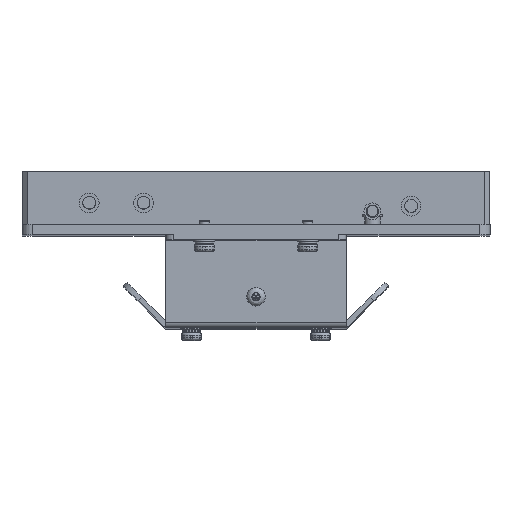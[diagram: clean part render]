
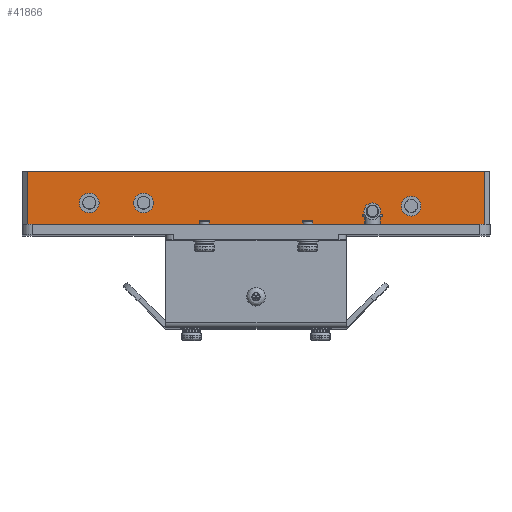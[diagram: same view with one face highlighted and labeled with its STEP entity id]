
A CAD part, top view. The second image highlights one B-rep face of the part: STEP entity #41866.
In plain terms, the highlighted planar face has unit normal (0, 0, 1).
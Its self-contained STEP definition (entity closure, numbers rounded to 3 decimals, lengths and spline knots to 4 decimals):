
#1998=FACE_BOUND('',#5967,.T.);
#1999=FACE_BOUND('',#5968,.T.);
#2000=FACE_BOUND('',#5969,.T.);
#2363=PLANE('',#44279);
#3671=FACE_OUTER_BOUND('',#5966,.T.);
#5966=EDGE_LOOP('',(#27624,#27625,#27626,#27627));
#5967=EDGE_LOOP('',(#27628,#27629));
#5968=EDGE_LOOP('',(#27630,#27631));
#5969=EDGE_LOOP('',(#27632,#27633));
#8557=LINE('',#56878,#12278);
#8560=LINE('',#56884,#12281);
#8561=LINE('',#56885,#12282);
#8562=LINE('',#56886,#12283);
#12278=VECTOR('',#47385,0.3937);
#12281=VECTOR('',#47390,0.3937);
#12282=VECTOR('',#47391,0.3937);
#12283=VECTOR('',#47392,0.3937);
#16014=CIRCLE('',#44280,0.1496);
#16015=CIRCLE('',#44281,0.1496);
#16016=CIRCLE('',#44282,0.1496);
#16017=CIRCLE('',#44283,0.1496);
#16018=CIRCLE('',#44284,0.1496);
#16019=CIRCLE('',#44285,0.1496);
#17170=VERTEX_POINT('',#56876);
#17171=VERTEX_POINT('',#56877);
#17172=VERTEX_POINT('',#56882);
#17173=VERTEX_POINT('',#56883);
#17174=VERTEX_POINT('',#56887);
#17175=VERTEX_POINT('',#56888);
#17176=VERTEX_POINT('',#56891);
#17177=VERTEX_POINT('',#56892);
#17178=VERTEX_POINT('',#56895);
#17179=VERTEX_POINT('',#56896);
#21319=EDGE_CURVE('',#17170,#17171,#8557,.T.);
#21322=EDGE_CURVE('',#17172,#17173,#8560,.T.);
#21323=EDGE_CURVE('',#17171,#17173,#8561,.T.);
#21324=EDGE_CURVE('',#17170,#17172,#8562,.T.);
#21325=EDGE_CURVE('',#17174,#17175,#16014,.T.);
#21326=EDGE_CURVE('',#17175,#17174,#16015,.T.);
#21327=EDGE_CURVE('',#17176,#17177,#16016,.T.);
#21328=EDGE_CURVE('',#17177,#17176,#16017,.T.);
#21329=EDGE_CURVE('',#17178,#17179,#16018,.T.);
#21330=EDGE_CURVE('',#17179,#17178,#16019,.T.);
#27624=ORIENTED_EDGE('',*,*,#21322,.T.);
#27625=ORIENTED_EDGE('',*,*,#21323,.F.);
#27626=ORIENTED_EDGE('',*,*,#21319,.F.);
#27627=ORIENTED_EDGE('',*,*,#21324,.T.);
#27628=ORIENTED_EDGE('',*,*,#21325,.T.);
#27629=ORIENTED_EDGE('',*,*,#21326,.T.);
#27630=ORIENTED_EDGE('',*,*,#21327,.T.);
#27631=ORIENTED_EDGE('',*,*,#21328,.T.);
#27632=ORIENTED_EDGE('',*,*,#21329,.T.);
#27633=ORIENTED_EDGE('',*,*,#21330,.T.);
#41866=ADVANCED_FACE('',(#3671,#1998,#1999,#2000),#2363,.T.);
#44279=AXIS2_PLACEMENT_3D('',#56881,#47388,#47389);
#44280=AXIS2_PLACEMENT_3D('',#56889,#47393,#47394);
#44281=AXIS2_PLACEMENT_3D('',#56890,#47395,#47396);
#44282=AXIS2_PLACEMENT_3D('',#56893,#47397,#47398);
#44283=AXIS2_PLACEMENT_3D('',#56894,#47399,#47400);
#44284=AXIS2_PLACEMENT_3D('',#56897,#47401,#47402);
#44285=AXIS2_PLACEMENT_3D('',#56898,#47403,#47404);
#47385=DIRECTION('',(0.,1.,0.));
#47388=DIRECTION('center_axis',(0.,0.,
1.));
#47389=DIRECTION('ref_axis',(1.,0.,0.));
#47390=DIRECTION('',(0.,1.,0.));
#47391=DIRECTION('',(1.,0.,0.));
#47392=DIRECTION('',(1.,0.,0.));
#47393=DIRECTION('center_axis',(0.,0.,
-1.));
#47394=DIRECTION('ref_axis',(1.,0.,0.));
#47395=DIRECTION('center_axis',(0.,0.,
-1.));
#47396=DIRECTION('ref_axis',(1.,0.,0.));
#47397=DIRECTION('center_axis',(0.,0.,
-1.));
#47398=DIRECTION('ref_axis',(1.,0.,0.));
#47399=DIRECTION('center_axis',(0.,0.,
-1.));
#47400=DIRECTION('ref_axis',(1.,0.,0.));
#47401=DIRECTION('center_axis',(0.,0.,
-1.));
#47402=DIRECTION('ref_axis',(1.,0.,0.));
#47403=DIRECTION('center_axis',(0.,0.,
-1.));
#47404=DIRECTION('ref_axis',(1.,0.,0.));
#56876=CARTESIAN_POINT('',(-11.5726,-0.2756,0.52));
#56877=CARTESIAN_POINT('',(-11.5726,0.5315,0.52));
#56878=CARTESIAN_POINT('',(-11.5726,0.374,0.52));
#56881=CARTESIAN_POINT('Origin',(-11.5726,0.374,0.52));
#56882=CARTESIAN_POINT('',(-4.6041,-0.2756,0.52));
#56883=CARTESIAN_POINT('',(-4.6041,0.5315,0.52));
#56884=CARTESIAN_POINT('',(-4.6041,0.374,0.52));
#56885=CARTESIAN_POINT('',(-11.5726,0.5315,0.52));
#56886=CARTESIAN_POINT('',(-11.5726,-0.2756,0.52));
#56887=CARTESIAN_POINT('',(-9.6513,0.0492,0.52));
#56888=CARTESIAN_POINT('',(-9.9506,0.0492,0.52));
#56889=CARTESIAN_POINT('Origin',(-9.801,0.0492,0.52));
#56890=CARTESIAN_POINT('Origin',(-9.801,0.0492,0.52));
#56891=CARTESIAN_POINT('',(-10.4781,0.0492,0.52));
#56892=CARTESIAN_POINT('',(-10.7773,0.0492,0.52));
#56893=CARTESIAN_POINT('Origin',(-10.6277,0.0492,0.52));
#56894=CARTESIAN_POINT('Origin',(-10.6277,0.0492,0.52));
#56895=CARTESIAN_POINT('',(-5.5765,0.,0.52));
#56896=CARTESIAN_POINT('',(-5.8758,0.,0.52));
#56897=CARTESIAN_POINT('Origin',(-5.7261,0.,
0.52));
#56898=CARTESIAN_POINT('Origin',(-5.7261,0.,
0.52));
